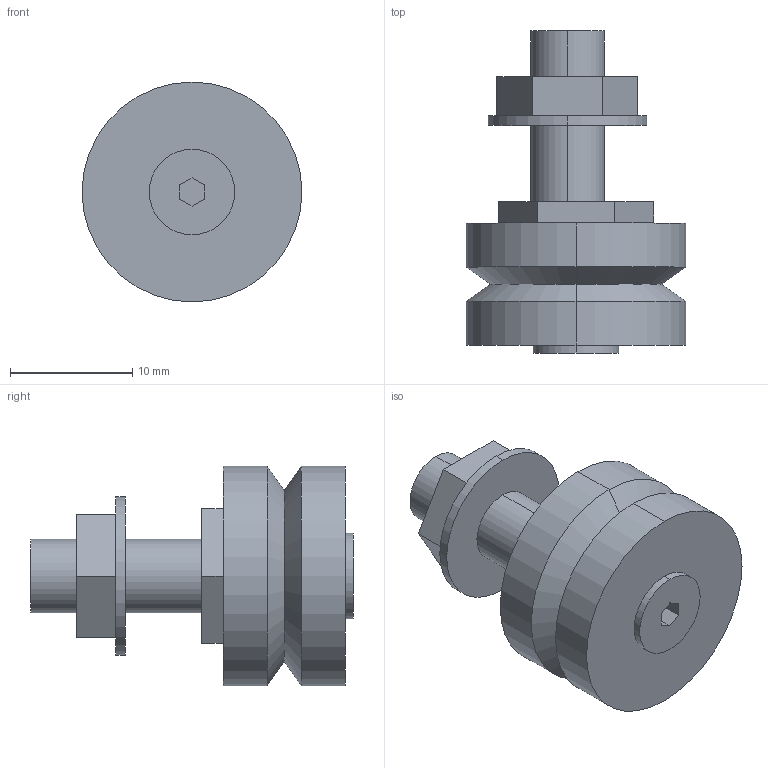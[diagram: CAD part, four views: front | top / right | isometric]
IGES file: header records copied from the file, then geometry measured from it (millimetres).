
Start section: 3D InterOp IGES (v. 2019 1.0.2), Spatial Corp. Copyright (c) 1999-2017.
Global section: file name: LJ 18 ENS.igs; native system: Spatial Corp.; preprocessor: 3D InterOp GENERIC/IGES 3.0; author: Noname; organization: Noname; date: 20220628.165351; units: millimetre
Bounding box: 18 x 26.4 x 18 mm (x, y, z)
Surface area: 1823.2 mm2 (no closed solid volume)
Topology: 0 solids, 0 shells, 50 faces, 228 edges, 228 vertices
Faces by surface type: extrusion 34, revolution 16
